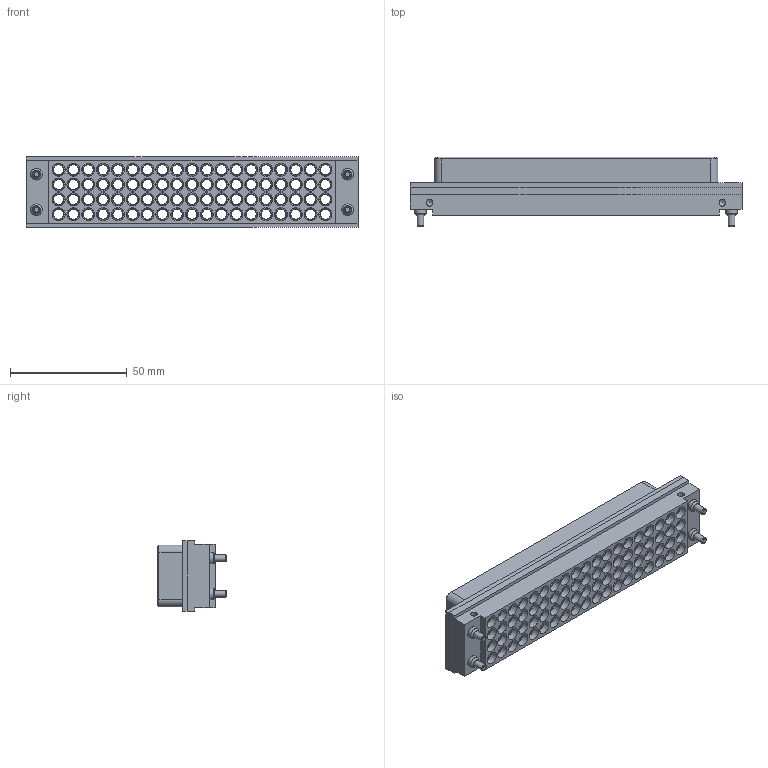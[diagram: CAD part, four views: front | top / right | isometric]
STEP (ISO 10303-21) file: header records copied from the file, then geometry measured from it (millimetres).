
FILE_DESCRIPTION(/* description */ (''),/* implementation_level */ '2;1');
FILE_NAME(/* name */ 'C:\Users\portiz\Desktop\PrimeCore Parasolid Models\70107600.stp',/* time_stamp */ '2014-08-06T14:41:52-04:00',/* author */ ('portiz'),/* organization */ (''),/* preprocessor_version */ 'ST-DEVELOPER v15.2',/* originating_system */ 'Autodesk Inventor 2014',/* authorisation */ '');
FILE_SCHEMA (('AUTOMOTIVE_DESIGN { 1 0 10303 214 3 1 1 }'));
Length unit declared in the file: inch
Products named in the file (7): 70107600B; 70107600C; 440D85; 440K45; 10682-02; HCS04401011; 70107600
Bounding box: 142.24 x 29.84 x 30.23 mm (x, y, z)
Volume: 51350.2 mm3; surface area: 51932.4 mm2
Topology: 16 solids, 16 shells, 1380 faces, 3259 edges, 2138 vertices
Faces by surface type: plane 572, cylinder 360, bspline 254, cone 194
Full cylindrical faces by diameter (mm): 0.005 x2, 2.845 x12, 3.048 x4, 3.175 x2, 3.277 x4, 4.242 x76, 4.648 x80, 4.953 x4, 4.978 x4, 5.575 x76, 5.588 x76, 5.953 x8
Entity records: 36550 total; most frequent: CARTESIAN_POINT 9245, ORIENTED_EDGE 4866, DIRECTION 4845, EDGE_CURVE 2433, EDGE_LOOP 2328, AXIS2_PLACEMENT_3D 1904, VERTEX_POINT 1895, ADVANCED_FACE 1277
